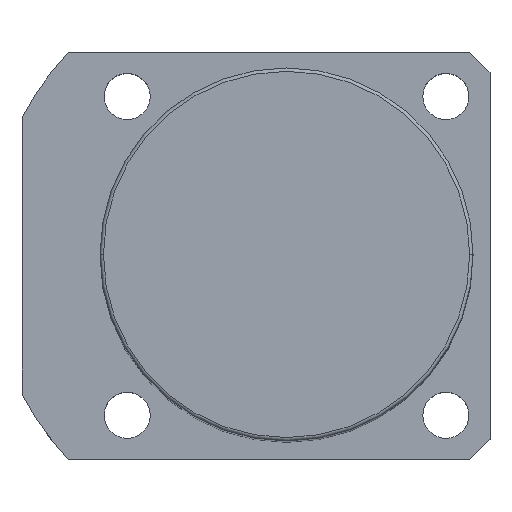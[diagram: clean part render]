
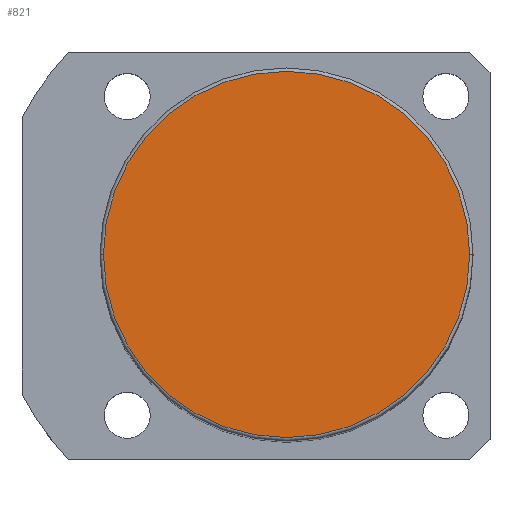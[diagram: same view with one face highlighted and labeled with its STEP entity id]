
A CAD part, top view. The second image highlights one B-rep face of the part: STEP entity #821.
In plain terms, the highlighted planar face has unit normal (0, 0, 1).
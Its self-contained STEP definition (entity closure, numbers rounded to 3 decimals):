
#129 = CARTESIAN_POINT ( 'NONE',  ( 0., 0., 131. ) ) ;
#250 = CARTESIAN_POINT ( 'NONE',  ( 0., 0., 131. ) ) ;
#317 = PLANE ( 'NONE',  #4582 ) ;
#324 = ORIENTED_EDGE ( 'NONE', *, *, #1574, .T. ) ;
#422 = DIRECTION ( 'NONE',  ( 0., 0., 1. ) ) ;
#481 = VERTEX_POINT ( 'NONE', #1533 ) ;
#541 = DIRECTION ( 'NONE',  ( 1., 0., 0. ) ) ;
#692 = DIRECTION ( 'NONE',  ( 1., 0., 0. ) ) ;
#821 = ADVANCED_FACE ( 'NONE', ( #1647 ), #317, .T. ) ;
#1500 = DIRECTION ( 'NONE',  ( 0., 0., 1. ) ) ;
#1533 = CARTESIAN_POINT ( 'NONE',  ( -27., 0., 131. ) ) ;
#1574 = EDGE_CURVE ( 'NONE', #5104, #481, #4094, .T. ) ;
#1604 = CARTESIAN_POINT ( 'NONE',  ( 27., 0., 131. ) ) ;
#1647 = FACE_OUTER_BOUND ( 'NONE', #2264, .T. ) ;
#1956 = EDGE_CURVE ( 'NONE', #481, #5104, #4169, .T. ) ;
#2264 = EDGE_LOOP ( 'NONE', ( #324, #3097 ) ) ;
#2889 = DIRECTION ( 'NONE',  ( 0., 0., 1. ) ) ;
#3097 = ORIENTED_EDGE ( 'NONE', *, *, #1956, .T. ) ;
#3842 = CARTESIAN_POINT ( 'NONE',  ( 0., 0., 131. ) ) ;
#4094 = CIRCLE ( 'NONE', #4763, 27. ) ;
#4169 = CIRCLE ( 'NONE', #4458, 27. ) ;
#4241 = DIRECTION ( 'NONE',  ( 1., 0., 0. ) ) ;
#4458 = AXIS2_PLACEMENT_3D ( 'NONE', #3842, #1500, #4241 ) ;
#4582 = AXIS2_PLACEMENT_3D ( 'NONE', #250, #422, #692 ) ;
#4763 = AXIS2_PLACEMENT_3D ( 'NONE', #129, #2889, #541 ) ;
#5104 = VERTEX_POINT ( 'NONE', #1604 ) ;
